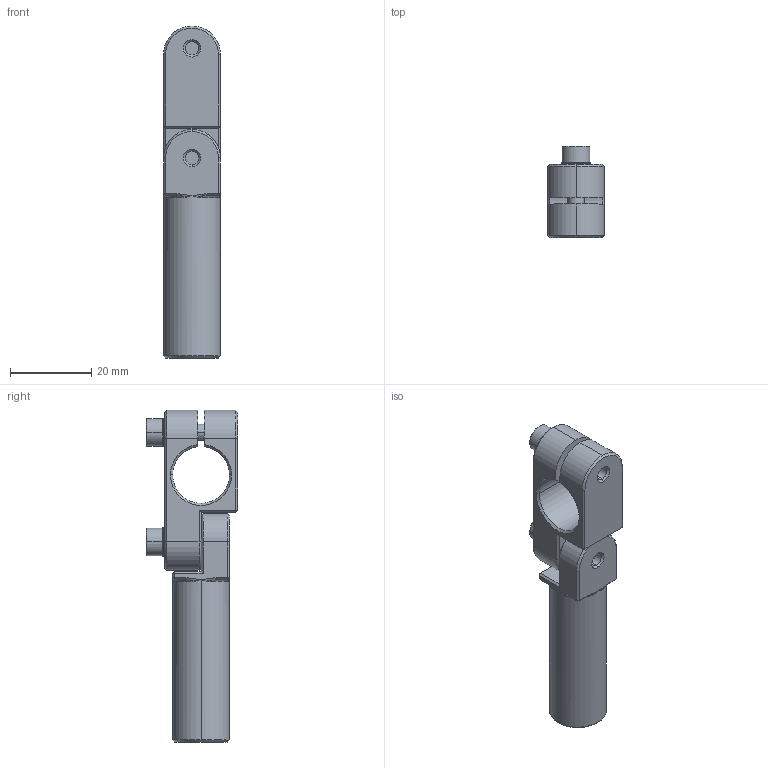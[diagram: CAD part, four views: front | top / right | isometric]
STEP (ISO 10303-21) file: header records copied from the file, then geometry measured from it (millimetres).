
FILE_DESCRIPTION (( 'STEP AP214' ), '1' );
FILE_NAME ('SEA-1414L40T.STEP', '2023-02-03T02:48:19', ( 'Windows User' ), ( 'P R C' ), 'SwSTEP 2.0', 'SolidWorks 2019', '' );
FILE_SCHEMA (( 'AUTOMOTIVE_DESIGN' ));
Length unit declared in the file: millimetre
Products named in the file (5): PTS-M4; SEA-1414L40.1; SEA-1414L40T; PTC-M4L14; SEA-1414L40.2
Assembly tree (6 placements, depth 2):
  SEA-1414L40T
    SEA-1414L40.1
    SEA-1414L40.2
    PTC-M4L14  x2
    PTS-M4  x2
Bounding box: 14 x 22.45 x 81.8 mm (x, y, z)
Volume: 11240.9 mm3; surface area: 7553.2 mm2
Topology: 6 solids, 6 shells, 499 faces, 1374 edges, 872 vertices
Faces by surface type: plane 394, cone 39, cylinder 38, bspline 24, torus 4
Entity records: 11374 total; most frequent: CARTESIAN_POINT 3344, ORIENTED_EDGE 1648, DIRECTION 1632, EDGE_CURVE 824, AXIS2_PLACEMENT_3D 568, VERTEX_POINT 518, LINE 496, VECTOR 496
